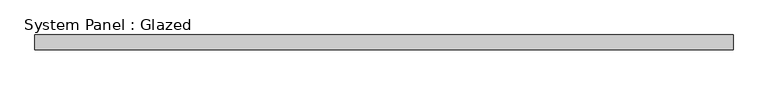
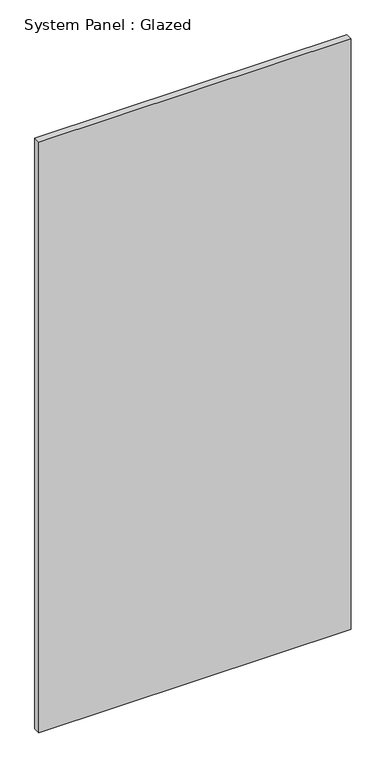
"""IFC4 building model written with IfcOpenShell, lengths in millimetres: plate geometry, System Panel : Glazed."""

from ifc_helpers import new_model, si_unit, origin, origin_with_axes, place, context, project, spatial, polyline, outline, extrude, source, transform, mapped, element, save


def system_panel_glazed_46823989(model_context):
    return source(origin(), model_context, "Body", "SweptSolid", [
        extrude(outline(polyline([(587.4999999, 24.5), (-587.4999999, 24.5), (-587.4999999, 49.5), (587.4999999, 49.5), (587.4999999, 24.5)])), origin_with_axes(), (0.0, 0.0, 1.0), 2350.0),
    ])


if __name__ == "__main__":
    model = new_model("IFC4")
    model_context = context("Model", 3, world=origin())
    ifc_project = project(units=[si_unit("LENGTHUNIT", "METRE", prefix="MILLI")], contexts=[model_context])
    site = spatial("IfcSite", under=ifc_project)
    building = spatial("IfcBuilding", under=site)
    placement = place(None, origin())
    system_panel_glazed_shape = system_panel_glazed_46823989(model_context)
    element("IfcPlate", 1, ObjectType="System Panel : Glazed", at=placement, inside=building, context=model_context, shape_type="MappedRepresentation", body=[
        mapped(system_panel_glazed_shape, transform((0.0, 0.0, 0.0), x_axis=(1.0, 0.0, 0.0), y_axis=(0.0, 1.0, 0.0), z_axis=(0.0, 0.0, 1.0))),
    ])
    save(model, "model.ifc")
